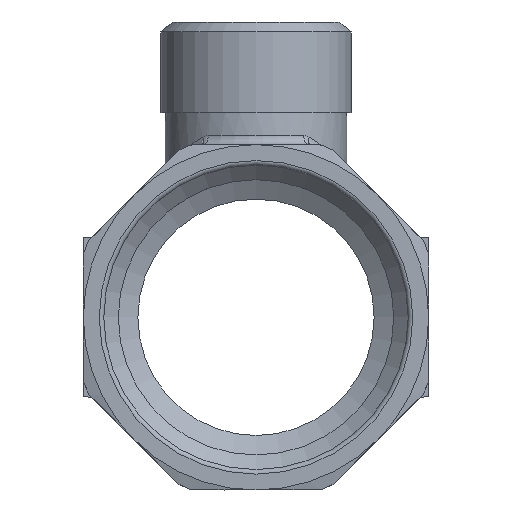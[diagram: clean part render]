
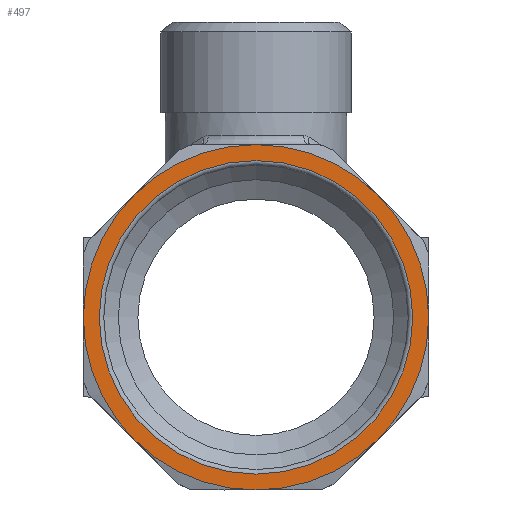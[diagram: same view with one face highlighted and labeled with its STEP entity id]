
A CAD part, front view. The second image highlights one B-rep face of the part: STEP entity #497.
In plain terms, the highlighted planar face has unit normal (0, -1, 0).
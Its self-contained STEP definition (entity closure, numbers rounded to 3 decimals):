
#497=ADVANCED_FACE('',(#6151,#6153),#6155,.F.);
#6151=FACE_BOUND('',#6152,.T.);
#6152=EDGE_LOOP('',(#10848,#10849,#10850,#10851,#10852,#10853,#10854,#10855));
#6153=FACE_BOUND('',#6154,.T.);
#6154=EDGE_LOOP('',(#10856));
#6155=PLANE('',#6156);
#6156=AXIS2_PLACEMENT_3D('',#6157,#6158,#6159);
#6157=CARTESIAN_POINT('',(0.,0.,0.));
#6158=DIRECTION('',(0.,1.,0.));
#6159=DIRECTION('',(-1.,0.,0.));
#10848=ORIENTED_EDGE('',*,*,#13742,.T.);
#10849=ORIENTED_EDGE('',*,*,#13717,.T.);
#10850=ORIENTED_EDGE('',*,*,#13716,.T.);
#10851=ORIENTED_EDGE('',*,*,#13747,.T.);
#10852=ORIENTED_EDGE('',*,*,#13746,.T.);
#10853=ORIENTED_EDGE('',*,*,#13745,.T.);
#10854=ORIENTED_EDGE('',*,*,#13744,.T.);
#10855=ORIENTED_EDGE('',*,*,#13743,.T.);
#10856=ORIENTED_EDGE('',*,*,#13748,.T.);
#13716=EDGE_CURVE('',#16306,#16394,#16400,.T.);
#13717=EDGE_CURVE('',#16346,#16306,#16401,.T.);
#13742=EDGE_CURVE('',#16354,#16346,#16438,.T.);
#13743=EDGE_CURVE('',#16362,#16354,#16439,.T.);
#13744=EDGE_CURVE('',#16370,#16362,#16440,.T.);
#13745=EDGE_CURVE('',#16378,#16370,#16441,.T.);
#13746=EDGE_CURVE('',#16386,#16378,#16442,.T.);
#13747=EDGE_CURVE('',#16394,#16386,#16443,.T.);
#13748=EDGE_CURVE('',#16444,#16444,#16445,.F.);
#16306=VERTEX_POINT('',#29800);
#16346=VERTEX_POINT('',#29935);
#16354=VERTEX_POINT('',#29984);
#16362=VERTEX_POINT('',#30045);
#16370=VERTEX_POINT('',#30094);
#16378=VERTEX_POINT('',#30153);
#16386=VERTEX_POINT('',#30202);
#16394=VERTEX_POINT('',#30261);
#16400=CIRCLE('',#30306,19.);
#16401=CIRCLE('',#30310,19.);
#16438=CIRCLE('',#30402,19.);
#16439=CIRCLE('',#30406,19.);
#16440=CIRCLE('',#30410,19.);
#16441=CIRCLE('',#30414,19.);
#16442=CIRCLE('',#30418,19.);
#16443=CIRCLE('',#30422,19.);
#16444=VERTEX_POINT('',#30426);
#16445=CIRCLE('',#30427,17.25);
#29800=CARTESIAN_POINT('',(0.,0.,19.));
#29935=CARTESIAN_POINT('',(13.435,0.,13.435));
#29984=CARTESIAN_POINT('',(19.,0.,0.));
#30045=CARTESIAN_POINT('',(13.435,0.,-13.435));
#30094=CARTESIAN_POINT('',(0.,0.,-19.));
#30153=CARTESIAN_POINT('',(-13.435,0.,-13.435));
#30202=CARTESIAN_POINT('',(-19.,0.,0.));
#30261=CARTESIAN_POINT('',(-13.435,0.,13.435));
#30306=AXIS2_PLACEMENT_3D('',#30307,#30308,#30309);
#30307=CARTESIAN_POINT('',(0.,0.,0.));
#30308=DIRECTION('',(0.,-1.,0.));
#30309=DIRECTION('',(0.,0.,1.));
#30310=AXIS2_PLACEMENT_3D('',#30311,#30312,#30313);
#30311=CARTESIAN_POINT('',(0.,0.,0.));
#30312=DIRECTION('',(0.,-1.,0.));
#30313=DIRECTION('',(0.707,0.,0.707));
#30402=AXIS2_PLACEMENT_3D('',#30403,#30404,#30405);
#30403=CARTESIAN_POINT('',(0.,0.,0.));
#30404=DIRECTION('',(0.,-1.,0.));
#30405=DIRECTION('',(1.,0.,0.));
#30406=AXIS2_PLACEMENT_3D('',#30407,#30408,#30409);
#30407=CARTESIAN_POINT('',(0.,0.,0.));
#30408=DIRECTION('',(0.,-1.,0.));
#30409=DIRECTION('',(0.707,0.,-0.707));
#30410=AXIS2_PLACEMENT_3D('',#30411,#30412,#30413);
#30411=CARTESIAN_POINT('',(0.,0.,0.));
#30412=DIRECTION('',(0.,-1.,0.));
#30413=DIRECTION('',(0.,0.,-1.));
#30414=AXIS2_PLACEMENT_3D('',#30415,#30416,#30417);
#30415=CARTESIAN_POINT('',(0.,0.,0.));
#30416=DIRECTION('',(0.,-1.,0.));
#30417=DIRECTION('',(-0.707,0.,-0.707));
#30418=AXIS2_PLACEMENT_3D('',#30419,#30420,#30421);
#30419=CARTESIAN_POINT('',(0.,0.,0.));
#30420=DIRECTION('',(0.,-1.,0.));
#30421=DIRECTION('',(-1.,0.,0.));
#30422=AXIS2_PLACEMENT_3D('',#30423,#30424,#30425);
#30423=CARTESIAN_POINT('',(0.,0.,0.));
#30424=DIRECTION('',(0.,-1.,0.));
#30425=DIRECTION('',(-0.707,0.,0.707));
#30426=CARTESIAN_POINT('',(17.25,0.,0.));
#30427=AXIS2_PLACEMENT_3D('',#30428,#30429,#30430);
#30428=CARTESIAN_POINT('',(0.,0.,0.));
#30429=DIRECTION('',(0.,-1.,0.));
#30430=DIRECTION('',(1.,0.,0.));
